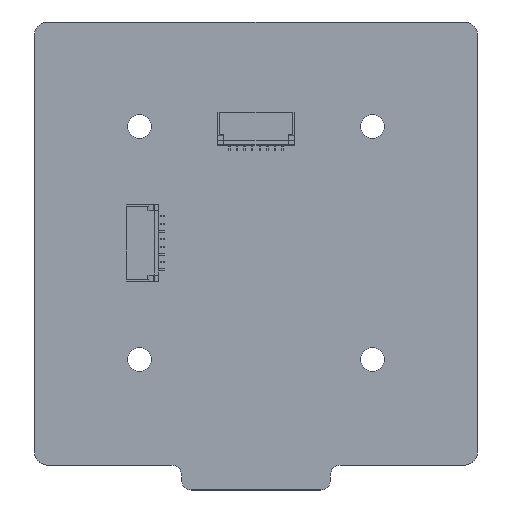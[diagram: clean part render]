
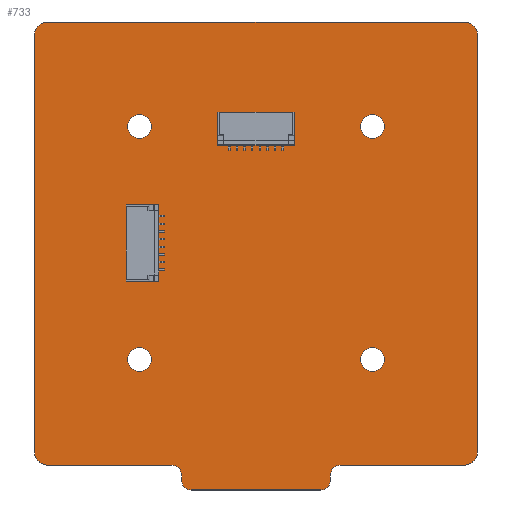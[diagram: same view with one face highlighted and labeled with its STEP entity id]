
A CAD part, top view. The second image highlights one B-rep face of the part: STEP entity #733.
In plain terms, the highlighted planar face has unit normal (0, 0, 1).
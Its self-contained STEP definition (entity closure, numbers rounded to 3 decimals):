
#60 = VERTEX_POINT('',#61);
#61 = CARTESIAN_POINT('',(17.98,2.75,2.94));
#67 = EDGE_CURVE('',#60,#68,#70,.T.);
#68 = VERTEX_POINT('',#69);
#69 = CARTESIAN_POINT('',(19.25,1.48,2.94));
#70 = CIRCLE('',#71,1.27);
#71 = AXIS2_PLACEMENT_3D('',#72,#73,#74);
#72 = CARTESIAN_POINT('',(17.98,1.48,2.94));
#73 = DIRECTION('',(0.,0.,-1.));
#74 = DIRECTION('',(0.,1.,0.));
#100 = EDGE_CURVE('',#68,#101,#103,.T.);
#101 = VERTEX_POINT('',#102);
#102 = CARTESIAN_POINT('',(19.25,0.77,2.94));
#103 = LINE('',#104,#105);
#104 = CARTESIAN_POINT('',(19.25,1.48,2.94));
#105 = VECTOR('',#106,1.);
#106 = DIRECTION('',(0.,-1.,0.));
#131 = EDGE_CURVE('',#101,#132,#134,.T.);
#132 = VERTEX_POINT('',#133);
#133 = CARTESIAN_POINT('',(20.52,-0.5,2.94));
#134 = CIRCLE('',#135,1.27);
#135 = AXIS2_PLACEMENT_3D('',#136,#137,#138);
#136 = CARTESIAN_POINT('',(20.52,0.77,2.94));
#137 = DIRECTION('',(0.,0.,1.));
#138 = DIRECTION('',(-1.,0.,0.));
#164 = EDGE_CURVE('',#132,#165,#167,.T.);
#165 = VERTEX_POINT('',#166);
#166 = CARTESIAN_POINT('',(37.48,-0.5,2.94));
#167 = LINE('',#168,#169);
#168 = CARTESIAN_POINT('',(20.52,-0.5,2.94));
#169 = VECTOR('',#170,1.);
#170 = DIRECTION('',(1.,0.,0.));
#195 = EDGE_CURVE('',#165,#196,#198,.T.);
#196 = VERTEX_POINT('',#197);
#197 = CARTESIAN_POINT('',(38.75,0.77,2.94));
#198 = CIRCLE('',#199,1.27);
#199 = AXIS2_PLACEMENT_3D('',#200,#201,#202);
#200 = CARTESIAN_POINT('',(37.48,0.77,2.94));
#201 = DIRECTION('',(0.,0.,1.));
#202 = DIRECTION('',(0.,-1.,0.));
#228 = EDGE_CURVE('',#196,#229,#231,.T.);
#229 = VERTEX_POINT('',#230);
#230 = CARTESIAN_POINT('',(38.75,1.48,2.94));
#231 = LINE('',#232,#233);
#232 = CARTESIAN_POINT('',(38.75,0.77,2.94));
#233 = VECTOR('',#234,1.);
#234 = DIRECTION('',(0.,1.,0.));
#259 = EDGE_CURVE('',#229,#260,#262,.T.);
#260 = VERTEX_POINT('',#261);
#261 = CARTESIAN_POINT('',(40.02,2.75,2.94));
#262 = CIRCLE('',#263,1.27);
#263 = AXIS2_PLACEMENT_3D('',#264,#265,#266);
#264 = CARTESIAN_POINT('',(40.02,1.48,2.94));
#265 = DIRECTION('',(0.,0.,-1.));
#266 = DIRECTION('',(-1.,0.,0.));
#292 = EDGE_CURVE('',#260,#293,#295,.T.);
#293 = VERTEX_POINT('',#294);
#294 = CARTESIAN_POINT('',(56.25,2.75,2.94));
#295 = LINE('',#296,#297);
#296 = CARTESIAN_POINT('',(40.02,2.75,2.94));
#297 = VECTOR('',#298,1.);
#298 = DIRECTION('',(1.,0.,0.));
#323 = EDGE_CURVE('',#293,#324,#326,.T.);
#324 = VERTEX_POINT('',#325);
#325 = CARTESIAN_POINT('',(58.,4.5,2.94));
#326 = CIRCLE('',#327,1.751);
#327 = AXIS2_PLACEMENT_3D('',#328,#329,#330);
#328 = CARTESIAN_POINT('',(56.249,4.501,2.94));
#329 = DIRECTION('',(0.,0.,1.));
#330 = DIRECTION('',(0.001,-1.,0.));
#356 = EDGE_CURVE('',#324,#357,#359,.T.);
#357 = VERTEX_POINT('',#358);
#358 = CARTESIAN_POINT('',(58.,59.,2.94));
#359 = LINE('',#360,#361);
#360 = CARTESIAN_POINT('',(58.,4.5,2.94));
#361 = VECTOR('',#362,1.);
#362 = DIRECTION('',(0.,1.,0.));
#387 = EDGE_CURVE('',#357,#388,#390,.T.);
#388 = VERTEX_POINT('',#389);
#389 = CARTESIAN_POINT('',(56.25,60.75,2.94));
#390 = CIRCLE('',#391,1.751);
#391 = AXIS2_PLACEMENT_3D('',#392,#393,#394);
#392 = CARTESIAN_POINT('',(56.249,58.999,2.94));
#393 = DIRECTION('',(0.,0.,1.));
#394 = DIRECTION('',(1.,0.001,-0.));
#420 = EDGE_CURVE('',#388,#421,#423,.T.);
#421 = VERTEX_POINT('',#422);
#422 = CARTESIAN_POINT('',(1.75,60.75,2.94));
#423 = LINE('',#424,#425);
#424 = CARTESIAN_POINT('',(56.25,60.75,2.94));
#425 = VECTOR('',#426,1.);
#426 = DIRECTION('',(-1.,0.,0.));
#451 = EDGE_CURVE('',#421,#452,#454,.T.);
#452 = VERTEX_POINT('',#453);
#453 = CARTESIAN_POINT('',(0.,59.,2.94));
#454 = CIRCLE('',#455,1.751);
#455 = AXIS2_PLACEMENT_3D('',#456,#457,#458);
#456 = CARTESIAN_POINT('',(1.751,58.999,2.94));
#457 = DIRECTION('',(0.,0.,1.));
#458 = DIRECTION('',(-0.001,1.,0.));
#484 = EDGE_CURVE('',#452,#485,#487,.T.);
#485 = VERTEX_POINT('',#486);
#486 = CARTESIAN_POINT('',(0.,4.5,2.94));
#487 = LINE('',#488,#489);
#488 = CARTESIAN_POINT('',(0.,59.,2.94));
#489 = VECTOR('',#490,1.);
#490 = DIRECTION('',(0.,-1.,0.));
#515 = EDGE_CURVE('',#485,#516,#518,.T.);
#516 = VERTEX_POINT('',#517);
#517 = CARTESIAN_POINT('',(1.75,2.75,2.94));
#518 = CIRCLE('',#519,1.751);
#519 = AXIS2_PLACEMENT_3D('',#520,#521,#522);
#520 = CARTESIAN_POINT('',(1.751,4.501,2.94));
#521 = DIRECTION('',(0.,0.,1.));
#522 = DIRECTION('',(-1.,-0.001,0.));
#548 = EDGE_CURVE('',#516,#60,#549,.T.);
#549 = LINE('',#550,#551);
#550 = CARTESIAN_POINT('',(1.75,2.75,2.94));
#551 = VECTOR('',#552,1.);
#552 = DIRECTION('',(1.,0.,0.));
#572 = VERTEX_POINT('',#573);
#573 = CARTESIAN_POINT('',(15.3,16.58,2.94));
#579 = EDGE_CURVE('',#572,#572,#580,.T.);
#580 = CIRCLE('',#581,1.55);
#581 = AXIS2_PLACEMENT_3D('',#582,#583,#584);
#582 = CARTESIAN_POINT('',(13.75,16.58,2.94));
#583 = DIRECTION('',(0.,0.,1.));
#584 = DIRECTION('',(1.,0.,-0.));
#605 = VERTEX_POINT('',#606);
#606 = CARTESIAN_POINT('',(15.3,47.08,2.94));
#612 = EDGE_CURVE('',#605,#605,#613,.T.);
#613 = CIRCLE('',#614,1.55);
#614 = AXIS2_PLACEMENT_3D('',#615,#616,#617);
#615 = CARTESIAN_POINT('',(13.75,47.08,2.94));
#616 = DIRECTION('',(0.,0.,1.));
#617 = DIRECTION('',(1.,0.,-0.));
#638 = VERTEX_POINT('',#639);
#639 = CARTESIAN_POINT('',(45.8,16.58,2.94));
#645 = EDGE_CURVE('',#638,#638,#646,.T.);
#646 = CIRCLE('',#647,1.55);
#647 = AXIS2_PLACEMENT_3D('',#648,#649,#650);
#648 = CARTESIAN_POINT('',(44.25,16.58,2.94));
#649 = DIRECTION('',(0.,0.,1.));
#650 = DIRECTION('',(1.,0.,-0.));
#671 = VERTEX_POINT('',#672);
#672 = CARTESIAN_POINT('',(45.8,47.08,2.94));
#678 = EDGE_CURVE('',#671,#671,#679,.T.);
#679 = CIRCLE('',#680,1.55);
#680 = AXIS2_PLACEMENT_3D('',#681,#682,#683);
#681 = CARTESIAN_POINT('',(44.25,47.08,2.94));
#682 = DIRECTION('',(0.,0.,1.));
#683 = DIRECTION('',(1.,0.,-0.));
#733 = ADVANCED_FACE('',(#734,#752,#755,#758,#761),#764,.T.);
#734 = FACE_BOUND('',#735,.T.);
#735 = EDGE_LOOP('',(#736,#737,#738,#739,#740,#741,#742,#743,#744,#745,
    #746,#747,#748,#749,#750,#751));
#736 = ORIENTED_EDGE('',*,*,#67,.T.);
#737 = ORIENTED_EDGE('',*,*,#100,.T.);
#738 = ORIENTED_EDGE('',*,*,#131,.T.);
#739 = ORIENTED_EDGE('',*,*,#164,.T.);
#740 = ORIENTED_EDGE('',*,*,#195,.T.);
#741 = ORIENTED_EDGE('',*,*,#228,.T.);
#742 = ORIENTED_EDGE('',*,*,#259,.T.);
#743 = ORIENTED_EDGE('',*,*,#292,.T.);
#744 = ORIENTED_EDGE('',*,*,#323,.T.);
#745 = ORIENTED_EDGE('',*,*,#356,.T.);
#746 = ORIENTED_EDGE('',*,*,#387,.T.);
#747 = ORIENTED_EDGE('',*,*,#420,.T.);
#748 = ORIENTED_EDGE('',*,*,#451,.T.);
#749 = ORIENTED_EDGE('',*,*,#484,.T.);
#750 = ORIENTED_EDGE('',*,*,#515,.T.);
#751 = ORIENTED_EDGE('',*,*,#548,.T.);
#752 = FACE_BOUND('',#753,.T.);
#753 = EDGE_LOOP('',(#754));
#754 = ORIENTED_EDGE('',*,*,#579,.F.);
#755 = FACE_BOUND('',#756,.T.);
#756 = EDGE_LOOP('',(#757));
#757 = ORIENTED_EDGE('',*,*,#612,.F.);
#758 = FACE_BOUND('',#759,.T.);
#759 = EDGE_LOOP('',(#760));
#760 = ORIENTED_EDGE('',*,*,#645,.F.);
#761 = FACE_BOUND('',#762,.T.);
#762 = EDGE_LOOP('',(#763));
#763 = ORIENTED_EDGE('',*,*,#678,.F.);
#764 = PLANE('',#765);
#765 = AXIS2_PLACEMENT_3D('',#766,#767,#768);
#766 = CARTESIAN_POINT('',(29.,30.923,2.94));
#767 = DIRECTION('',(0.,0.,1.));
#768 = DIRECTION('',(1.,0.,-0.));
